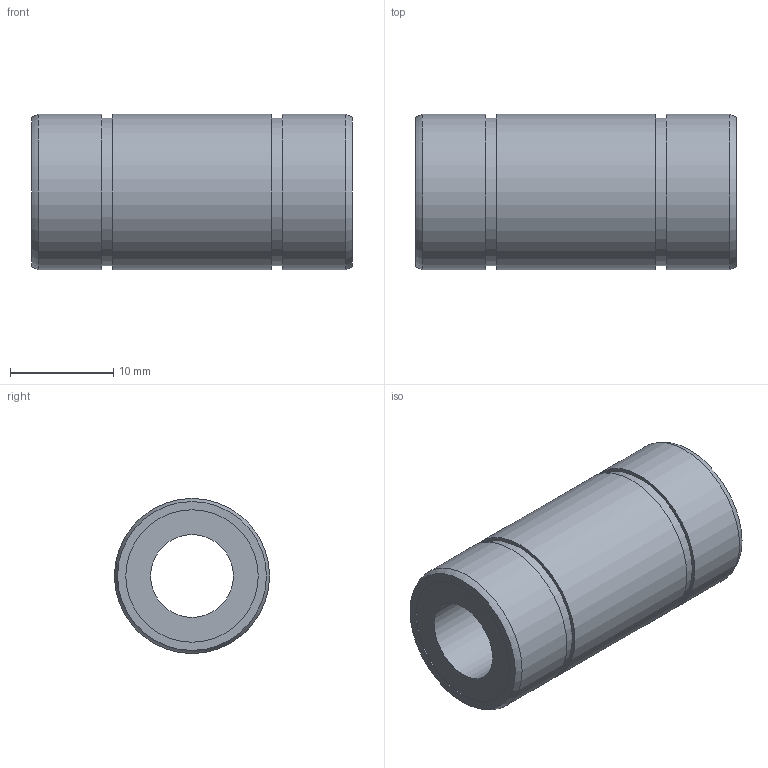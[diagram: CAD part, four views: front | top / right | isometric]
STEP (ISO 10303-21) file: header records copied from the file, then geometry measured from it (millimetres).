
FILE_DESCRIPTION((''),'2;1');
FILE_NAME('D:\製品 (図面)\カタログ用3D\メンテナンスフリー関連\STEP形式\L-MF\L8MF.stp','2010-06-01T16:12:00',('Tsuchiya'),(''),'Autodesk Inventor 10','Autodesk Inventor 10','');
FILE_SCHEMA(('AUTOMOTIVE_DESIGN { 1 0 10303 214 1 1 1 1 }'));
Length unit declared in the file: millimetre
Products named in the file (1): L8MF
Bounding box: 31 x 15 x 15 mm (x, y, z)
Volume: 3860.7 mm3; surface area: 2533 mm2
Topology: 1 solids, 1 shells, 18 faces, 28 edges, 18 vertices
Faces by surface type: cylinder 8, plane 8, torus 2
Full cylindrical faces by diameter (mm): 8 x1, 12.8 x2, 14.3 x2, 15 x3
Entity records: 391 total; most frequent: DIRECTION 74, CARTESIAN_POINT 55, AXIS2_PLACEMENT_3D 37, ORIENTED_EDGE 36, EDGE_LOOP 36, VERTEX_POINT 18, CIRCLE 18, EDGE_CURVE 18
